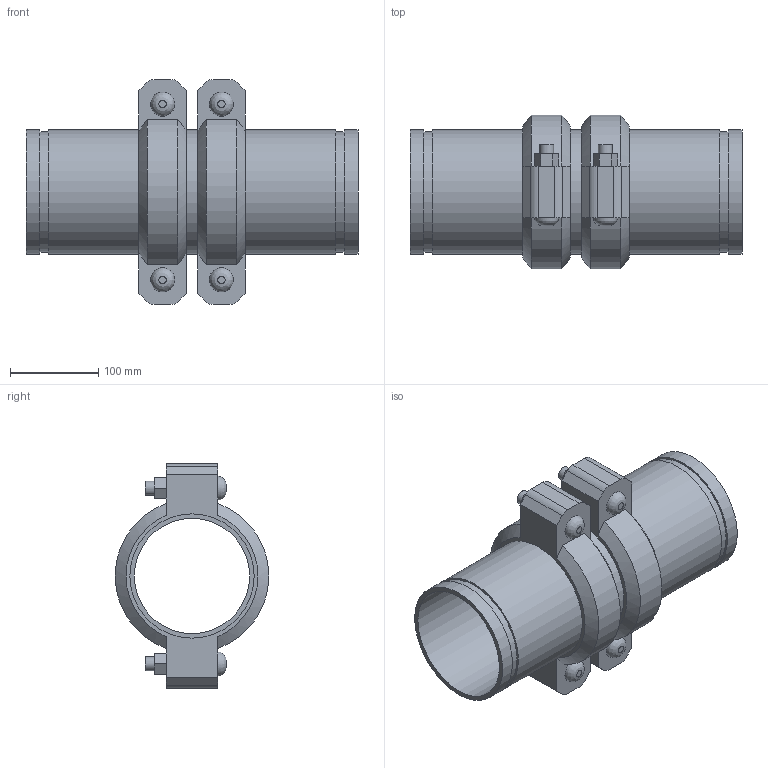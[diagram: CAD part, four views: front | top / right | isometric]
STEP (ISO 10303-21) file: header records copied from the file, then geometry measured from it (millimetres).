
FILE_DESCRIPTION(/* description */ ('VIC EXPANSION JOINT 2 COUPLINGS EXPANDED STYLE 155 (OGS)','CAx-IF Rec.Pracs.---Representation and Presentation of Product Manufacturing Information (PMI)---4.0---2014-10-13'),/* implementation_level */ '2;1');
FILE_NAME(/* name */ 'C:\Users\kkamble\AppData\Roaming\Autodesk\ApplicationPlugins\Victaulic.Temp\A706\Victaulic_IPS_Expansion Joint_Expanded_2 Couplings_Style 155 (OGS)_5 (125).stp',/* time_stamp */ '2021-06-26T23:56:36+02:00',/* author */ ('kkamble'),/* organization */ ('Victaulic'),/* preprocessor_version */ 'ST-DEVELOPER v17.2',/* originating_system */ 'Autodesk Inventor 2019',/* authorisation */ '');
FILE_SCHEMA (('AP242_MANAGED_MODEL_BASED_3D_ENGINEERING_MIM_LF { 1 0 10303 442 1 1 4 }'));
Length unit declared in the file: inch
Products named in the file (4): 155-05.0; Nipple-05.0; Nipple-05.0_1; 075-05.0
Assembly tree (5 placements, depth 2):
  155-05.0
    Nipple-05.0  x2
    Nipple-05.0_1
    075-05.0  x2
Bounding box: 377.19 x 174.16 x 255.78 mm (x, y, z)
Volume: 2111112.6 mm3; surface area: 543483.9 mm2
Topology: 5 solids, 9 shells, 150 faces, 356 edges, 252 vertices
Faces by surface type: plane 90, cylinder 48, cone 8, bspline 4
Full cylindrical faces by diameter (mm): 15.875 x8, 17.424 x4, 130.988 x3, 134.95 x2, 137.033 x6, 141.3 x13
Entity records: 2753 total; most frequent: CARTESIAN_POINT 489, DIRECTION 453, ORIENTED_EDGE 386, EDGE_CURVE 193, AXIS2_PLACEMENT_3D 180, VERTEX_POINT 138, EDGE_LOOP 107, LINE 93
